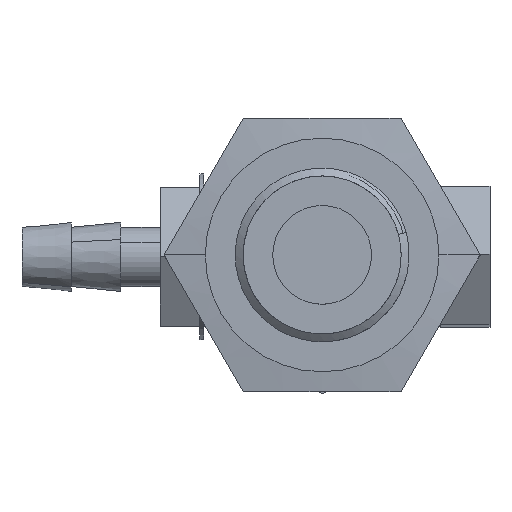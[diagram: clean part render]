
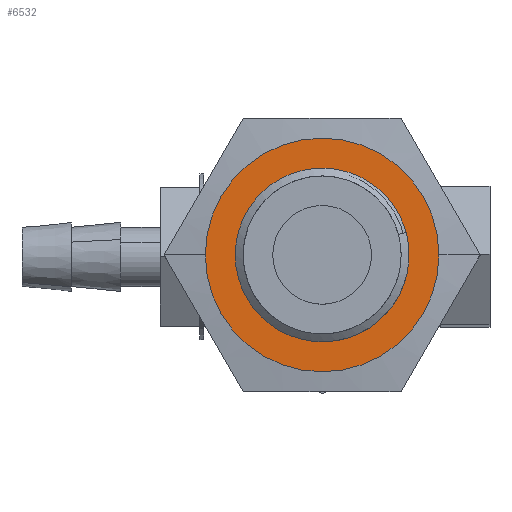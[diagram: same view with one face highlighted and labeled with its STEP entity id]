
A CAD part, top view. The second image highlights one B-rep face of the part: STEP entity #6532.
In plain terms, the highlighted planar face has unit normal (0, 0, 1).
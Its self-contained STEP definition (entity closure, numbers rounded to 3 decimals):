
#575 = ORIENTED_EDGE ( 'NONE', *, *, #6060, .T. ) ;
#612 = DIRECTION ( 'NONE',  ( 1., 0., 0. ) ) ;
#1323 = CIRCLE ( 'NONE', #6723, 4.25 ) ;
#1397 = VERTEX_POINT ( 'NONE', #10220 ) ;
#2297 = AXIS2_PLACEMENT_3D ( 'NONE', #15111, #8145, #612 ) ;
#3095 = EDGE_LOOP ( 'NONE', ( #3461, #10068 ) ) ;
#3461 = ORIENTED_EDGE ( 'NONE', *, *, #6272, .T. ) ;
#3533 = DIRECTION ( 'NONE',  ( 0., 0., 1. ) ) ;
#4304 = AXIS2_PLACEMENT_3D ( 'NONE', #6672, #14957, #7978 ) ;
#4445 = EDGE_LOOP ( 'NONE', ( #13184, #575 ) ) ;
#4836 = VERTEX_POINT ( 'NONE', #11604 ) ;
#5211 = CARTESIAN_POINT ( 'NONE',  ( 1.911, 0.206, 31.25 ) ) ;
#5654 = VERTEX_POINT ( 'NONE', #8353 ) ;
#5675 = CARTESIAN_POINT ( 'NONE',  ( 7.827, 0.206, 31.25 ) ) ;
#6060 = EDGE_CURVE ( 'NONE', #10098, #5654, #7108, .T. ) ;
#6272 = EDGE_CURVE ( 'NONE', #4836, #1397, #15682, .T. ) ;
#6519 = DIRECTION ( 'NONE',  ( -1., 0., 0. ) ) ;
#6532 = ADVANCED_FACE ( 'NONE', ( #12611, #9486 ), #10451, .T. ) ;
#6629 = EDGE_CURVE ( 'NONE', #1397, #4836, #1323, .T. ) ;
#6672 = CARTESIAN_POINT ( 'NONE',  ( 1.911, 0.206, 31.25 ) ) ;
#6723 = AXIS2_PLACEMENT_3D ( 'NONE', #7432, #15602, #8650 ) ;
#6734 = EDGE_CURVE ( 'NONE', #5654, #10098, #13737, .T. ) ;
#7108 = CIRCLE ( 'NONE', #8310, 5.916 ) ;
#7432 = CARTESIAN_POINT ( 'NONE',  ( 1.911, 0.206, 31.25 ) ) ;
#7978 = DIRECTION ( 'NONE',  ( 1., 0., 0. ) ) ;
#8145 = DIRECTION ( 'NONE',  ( 0., 0., 1. ) ) ;
#8310 = AXIS2_PLACEMENT_3D ( 'NONE', #10922, #3533, #12106 ) ;
#8353 = CARTESIAN_POINT ( 'NONE',  ( -4.004, 0.206, 31.25 ) ) ;
#8650 = DIRECTION ( 'NONE',  ( 1., 0., 0. ) ) ;
#9103 = AXIS2_PLACEMENT_3D ( 'NONE', #5211, #13692, #6519 ) ;
#9486 = FACE_OUTER_BOUND ( 'NONE', #4445, .T. ) ;
#10068 = ORIENTED_EDGE ( 'NONE', *, *, #6629, .T. ) ;
#10098 = VERTEX_POINT ( 'NONE', #5675 ) ;
#10220 = CARTESIAN_POINT ( 'NONE',  ( -2.339, 0.206, 31.25 ) ) ;
#10451 = PLANE ( 'NONE',  #2297 ) ;
#10922 = CARTESIAN_POINT ( 'NONE',  ( 1.911, 0.206, 31.25 ) ) ;
#11604 = CARTESIAN_POINT ( 'NONE',  ( 6.161, 0.206, 31.25 ) ) ;
#12106 = DIRECTION ( 'NONE',  ( -1., 0., 0. ) ) ;
#12611 = FACE_BOUND ( 'NONE', #3095, .T. ) ;
#13184 = ORIENTED_EDGE ( 'NONE', *, *, #6734, .T. ) ;
#13692 = DIRECTION ( 'NONE',  ( 0., 0., 1. ) ) ;
#13737 = CIRCLE ( 'NONE', #9103, 5.916 ) ;
#14957 = DIRECTION ( 'NONE',  ( 0., 0., -1. ) ) ;
#15111 = CARTESIAN_POINT ( 'NONE',  ( -4.075, -5.781, 31.25 ) ) ;
#15602 = DIRECTION ( 'NONE',  ( 0., 0., -1. ) ) ;
#15682 = CIRCLE ( 'NONE', #4304, 4.25 ) ;
